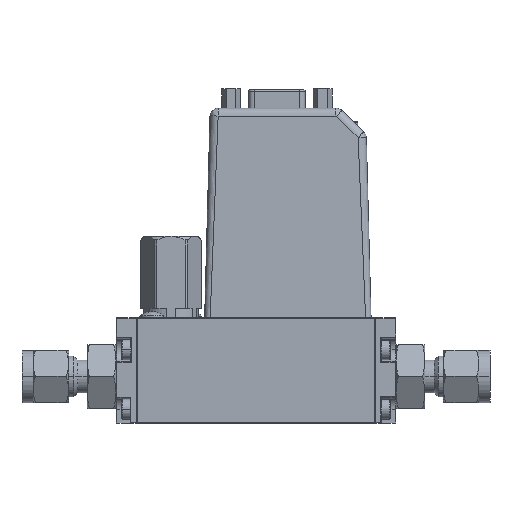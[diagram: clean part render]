
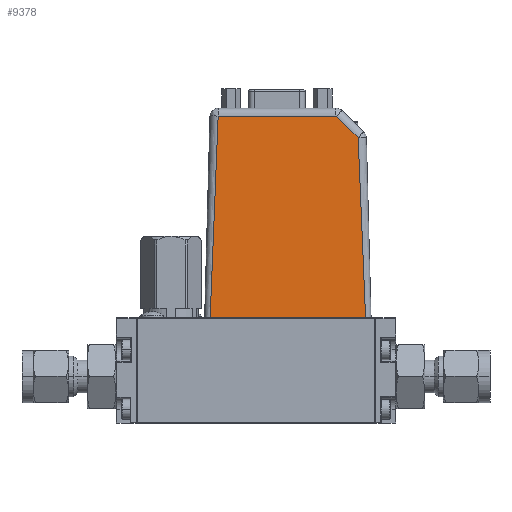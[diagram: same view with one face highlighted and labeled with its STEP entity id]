
A CAD part, top view. The second image highlights one B-rep face of the part: STEP entity #9378.
In plain terms, the highlighted planar face has unit normal (0, 0.026, 1).
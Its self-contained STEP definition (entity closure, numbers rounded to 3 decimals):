
#366 = CARTESIAN_POINT ( 'NONE',  ( 51.062, 49.228, 11.111 ) ) ;
#1237 = ORIENTED_EDGE ( 'NONE', *, *, #3487, .T. ) ;
#2159 = VECTOR ( 'NONE', #12449, 1000. ) ;
#2814 = B_SPLINE_CURVE_WITH_KNOTS ( 'NONE', 3,
 ( #23621, #20817, #12480, #31996 ),
 .UNSPECIFIED., .F., .F.,
 ( 4, 4 ),
 ( 0.407, 0.6 ),
 .UNSPECIFIED. ) ;
#3151 = VECTOR ( 'NONE', #35904, 1000. ) ;
#3487 = EDGE_CURVE ( 'NONE', #23449, #26025, #23063, .T. ) ;
#3567 = CARTESIAN_POINT ( 'NONE',  ( 51.062, 49.228, 11.111 ) ) ;
#4965 = ORIENTED_EDGE ( 'NONE', *, *, #11773, .T. ) ;
#5141 = ORIENTED_EDGE ( 'NONE', *, *, #10048, .F. ) ;
#5486 = LINE ( 'NONE', #31665, #27750 ) ;
#5940 = AXIS2_PLACEMENT_3D ( 'NONE', #30094, #35581, #35710 ) ;
#8135 = EDGE_CURVE ( 'NONE', #31373, #26773, #2814, .T. ) ;
#8142 =( BOUNDED_CURVE ( )  B_SPLINE_CURVE ( 3, ( #31050, #11524, #25447, #14335 ),
 .UNSPECIFIED., .F., .F. ) 
 B_SPLINE_CURVE_WITH_KNOTS ( ( 4, 4 ),
 ( 5.511, 6.283 ),
 .UNSPECIFIED. ) 
 CURVE ( )  GEOMETRIC_REPRESENTATION_ITEM ( )  RATIONAL_B_SPLINE_CURVE ( ( 1., 0.951, 0.951, 1. ) ) 
 REPRESENTATION_ITEM ( '' )  );
#9378 = ADVANCED_FACE ( 'NONE', ( #23246 ), #32880, .T. ) ;
#10048 = EDGE_CURVE ( 'NONE', #23449, #26773, #25383, .T. ) ;
#10774 = CARTESIAN_POINT ( 'NONE',  ( 45.137, 55.001, 10.96 ) ) ;
#11524 = CARTESIAN_POINT ( 'NONE',  ( 45.099, 55.038, 10.959 ) ) ;
#11773 = EDGE_CURVE ( 'NONE', #35203, #31373, #23499, .T. ) ;
#12449 = DIRECTION ( 'NONE',  ( -1., 0., 0. ) ) ;
#12480 = CARTESIAN_POINT ( 'NONE',  ( 11.165, 18.359, 11.919 ) ) ;
#14182 = CARTESIAN_POINT ( 'NONE',  ( 51.515, 32.813, 11.541 ) ) ;
#14335 = CARTESIAN_POINT ( 'NONE',  ( 44.997, 55.058, 10.958 ) ) ;
#16987 = CARTESIAN_POINT ( 'NONE',  ( 12.872, 55.058, 10.958 ) ) ;
#17783 = DIRECTION ( 'NONE',  ( -0.716, 0.698, -0.018 ) ) ;
#19446 = ORIENTED_EDGE ( 'NONE', *, *, #22984, .T. ) ;
#20817 = CARTESIAN_POINT ( 'NONE',  ( 12.341, 36.7, 11.439 ) ) ;
#20873 = EDGE_LOOP ( 'NONE', ( #1237, #28161, #19446, #4965, #30522, #5141 ) ) ;
#22043 = CARTESIAN_POINT ( 'NONE',  ( 54.6, 0., 12.4 ) ) ;
#22984 = EDGE_CURVE ( 'NONE', #28252, #35203, #8142, .T. ) ;
#23063 = B_SPLINE_CURVE_WITH_KNOTS ( 'NONE', 3,
 ( #30895, #33691, #14182, #366 ),
 .UNSPECIFIED., .F., .F.,
 ( 4, 4 ),
 ( 0.4, 0.588 ),
 .UNSPECIFIED. ) ;
#23246 = FACE_OUTER_BOUND ( 'NONE', #20873, .T. ) ;
#23278 = CARTESIAN_POINT ( 'NONE',  ( 44.997, 55.058, 10.958 ) ) ;
#23449 = VERTEX_POINT ( 'NONE', #32831 ) ;
#23499 = LINE ( 'NONE', #29176, #2159 ) ;
#23621 = CARTESIAN_POINT ( 'NONE',  ( 12.872, 55.058, 10.958 ) ) ;
#25383 = LINE ( 'NONE', #22043, #3151 ) ;
#25447 = CARTESIAN_POINT ( 'NONE',  ( 45.05, 55.058, 10.958 ) ) ;
#26025 = VERTEX_POINT ( 'NONE', #3567 ) ;
#26773 = VERTEX_POINT ( 'NONE', #34872 ) ;
#27750 = VECTOR ( 'NONE', #17783, 1000. ) ;
#28161 = ORIENTED_EDGE ( 'NONE', *, *, #30362, .T. ) ;
#28252 = VERTEX_POINT ( 'NONE', #10774 ) ;
#29176 = CARTESIAN_POINT ( 'NONE',  ( 54.6, 55.058, 10.958 ) ) ;
#30094 = CARTESIAN_POINT ( 'NONE',  ( 54.6, 0., 12.4 ) ) ;
#30362 = EDGE_CURVE ( 'NONE', #26025, #28252, #5486, .T. ) ;
#30522 = ORIENTED_EDGE ( 'NONE', *, *, #8135, .T. ) ;
#30895 = CARTESIAN_POINT ( 'NONE',  ( 53.101, 0., 12.4 ) ) ;
#31050 = CARTESIAN_POINT ( 'NONE',  ( 45.137, 55.001, 10.96 ) ) ;
#31373 = VERTEX_POINT ( 'NONE', #16987 ) ;
#31665 = CARTESIAN_POINT ( 'NONE',  ( 77.491, 23.479, 11.785 ) ) ;
#31996 = CARTESIAN_POINT ( 'NONE',  ( 10.684, 0., 12.4 ) ) ;
#32831 = CARTESIAN_POINT ( 'NONE',  ( 53.101, 0., 12.4 ) ) ;
#32880 = PLANE ( 'NONE',  #5940 ) ;
#33691 = CARTESIAN_POINT ( 'NONE',  ( 52.669, 16.416, 11.97 ) ) ;
#34872 = CARTESIAN_POINT ( 'NONE',  ( 10.684, 0., 12.4 ) ) ;
#35203 = VERTEX_POINT ( 'NONE', #23278 ) ;
#35581 = DIRECTION ( 'NONE',  ( 0., 0.026, 1. ) ) ;
#35710 = DIRECTION ( 'NONE',  ( 0., 1., -0.026 ) ) ;
#35904 = DIRECTION ( 'NONE',  ( -1., 0., 0. ) ) ;
